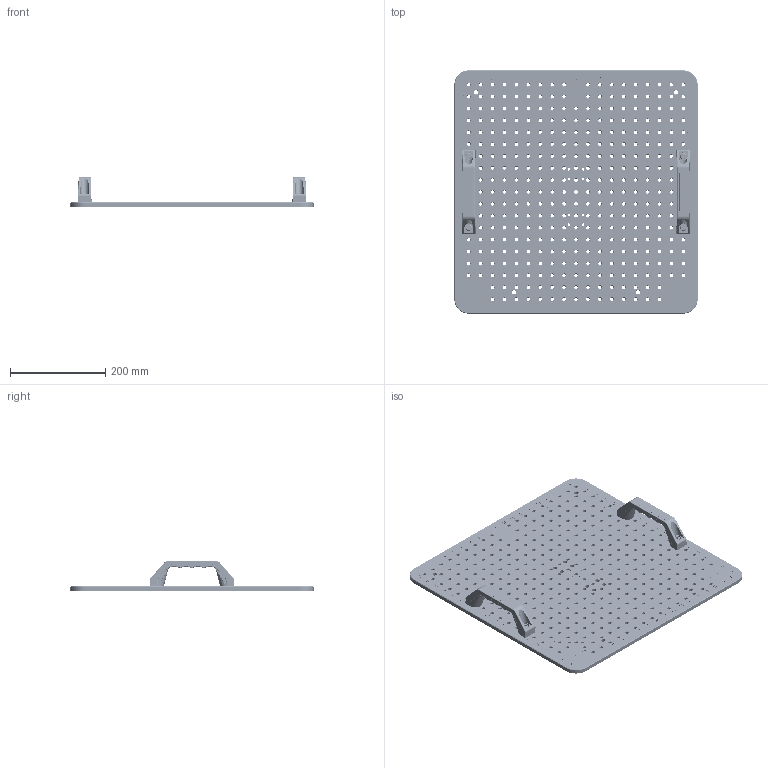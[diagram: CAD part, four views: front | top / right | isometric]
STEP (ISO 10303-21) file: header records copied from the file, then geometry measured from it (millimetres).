
FILE_DESCRIPTION(/* description */ (''),/* implementation_level */ '2;1');
FILE_NAME(/* name */ 'EQ500 M8 MODULAR.stp',/* time_stamp */ '2021-02-17T08:33:55+00:00',/* author */ (''),/* organization */ (''),/* preprocessor_version */ 'ST-DEVELOPER v16.7',/* originating_system */ 'SIEMENS PLM Software NX 1942',/* authorisation */ '');
FILE_SCHEMA (('AUTOMOTIVE_DESIGN { 1 0 10303 214 3 1 1 1 }'));
Products named in the file (1): jh1457B8CC4Bm5dv
Bounding box: 510 x 510 x 63.2 mm (x, y, z)
Volume: 2619018.7 mm3; surface area: 651943.3 mm2
Topology: 18 solids, 18 shells, 3264 faces, 8255 edges, 5379 vertices
Faces by surface type: plane 1520, cylinder 717, bspline 580, cone 423, torus 24
Full cylindrical faces by diameter (mm): 3.4 x6, 4 x6, 4.5 x6, 5.5 x8, 6.9 x351, 7.89 x6, 8 x4, 9 x12, 13 x4, 21.5 x3, 22 x3, 42 x3, 43 x3
Entity records: 120281 total; most frequent: CARTESIAN_POINT 44282, ORIENTED_EDGE 14704, DIRECTION 12956, EDGE_CURVE 7352, VERTEX_POINT 5338, EDGE_LOOP 5218, AXIS2_PLACEMENT_3D 4490, LINE 3976
